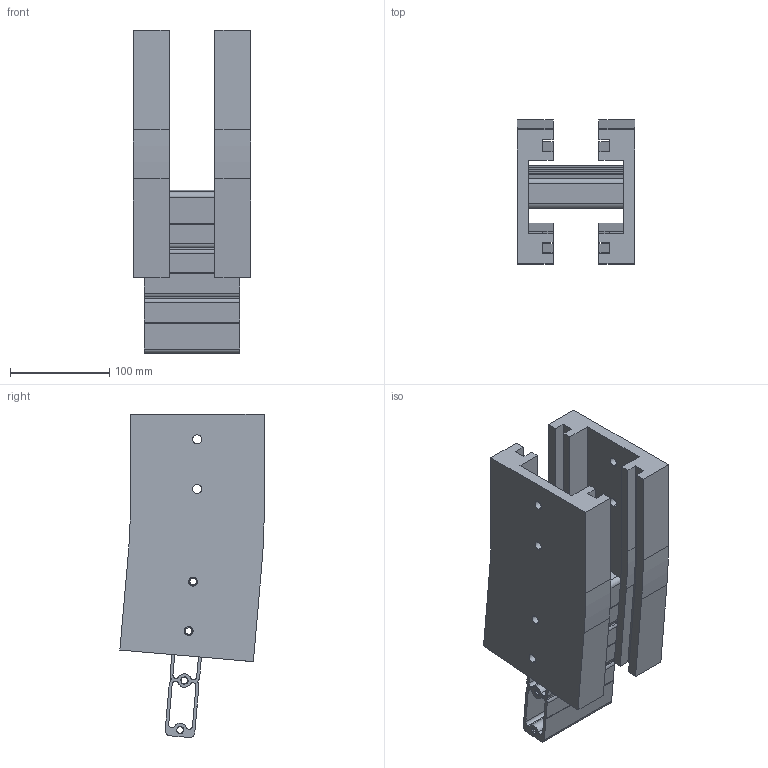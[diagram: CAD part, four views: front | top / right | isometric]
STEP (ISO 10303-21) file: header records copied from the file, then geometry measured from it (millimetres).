
FILE_DESCRIPTION (( 'STEP AP203' ), '1' );
FILE_NAME ('R3CV500-5.STEP', '2009-01-13T08:22:24', ( 'faber' ), ( '' ), 'SwSTEP 2.0', 'SolidWorks 2008', '' );
FILE_SCHEMA (( 'CONFIG_CONTROL_DESIGN' ));
Length unit declared in the file: millimetre
Products named in the file (1): R3CV500-5
Bounding box: 118 x 145.36 x 325.51 mm (x, y, z)
Surface area: 289376.7 mm2 (no closed solid volume)
Topology: 0 solids, 3 shells, 199 faces, 770 edges, 562 vertices
Faces by surface type: plane 110, cylinder 89
Entity records: 8321 total; most frequent: CARTESIAN_POINT 1532, DIRECTION 1444, ORIENTED_EDGE 1334, EDGE_CURVE 770, VERTEX_POINT 562, LINE 496, VECTOR 496, AXIS2_PLACEMENT_3D 474
